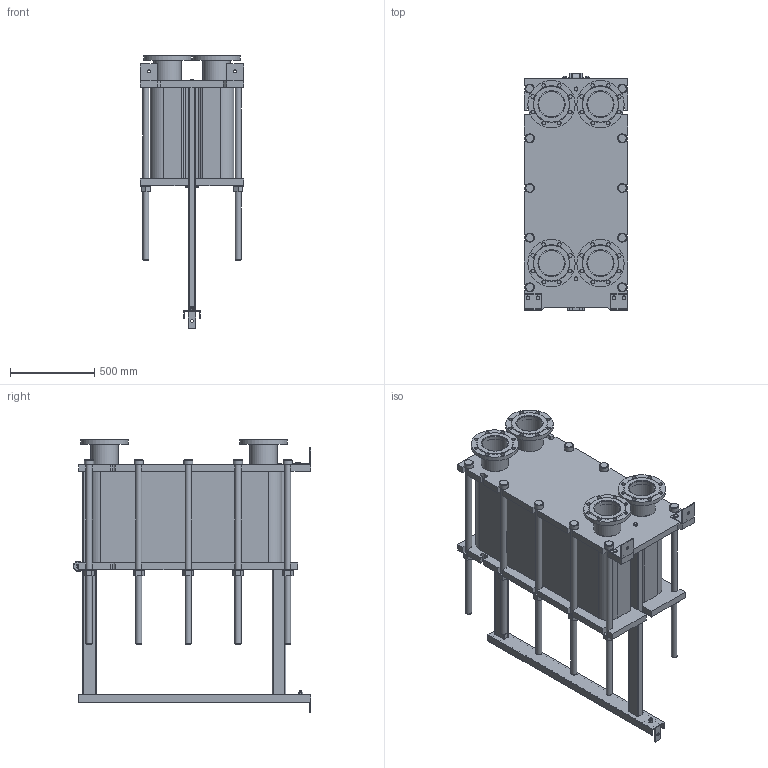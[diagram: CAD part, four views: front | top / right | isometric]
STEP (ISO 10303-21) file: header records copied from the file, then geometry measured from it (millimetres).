
FILE_DESCRIPTION(/* description */ (''),/* implementation_level */ '2;1');
FILE_NAME(/* name */ 'C:\Users\zhuro\Desktop\ENCO\TO\ЭН-041\ЭН-0,5-041-157-1.stp',/* time_stamp */ '2022-06-06T11:02:41+03:00',/* author */ ('zhuro'),/* organization */ (''),/* preprocessor_version */ 'ST-DEVELOPER v18.1',/* originating_system */ 'Autodesk Inventor 2022',/* authorisation */ '');
FILE_SCHEMA (('AUTOMOTIVE_DESIGN { 1 0 10303 214 3 1 1 }'));
Length unit declared in the file: millimetre
Products named in the file (1): ЭН-0,5-041-157-1
Bounding box: 610 x 1406.5 x 1617.5 mm (x, y, z)
Volume: 389122839.8 mm3; surface area: 10281314.4 mm2
Topology: 52 solids, 52 shells, 711 faces, 1696 edges, 1094 vertices
Faces by surface type: plane 487, cylinder 177, cone 41, torus 6
Full cylindrical faces by diameter (mm): 8 x4, 10 x2, 16 x8, 18 x3, 22 x32, 36 x24, 50 x1, 54 x10, 60 x12, 151 x4, 161 x8, 280 x4
Entity records: 22667 total; most frequent: CARTESIAN_POINT 5230, DIRECTION 3644, ORIENTED_EDGE 3392, EDGE_CURVE 1696, AXIS2_PLACEMENT_3D 1272, LINE 1100, VECTOR 1100, VERTEX_POINT 1094
